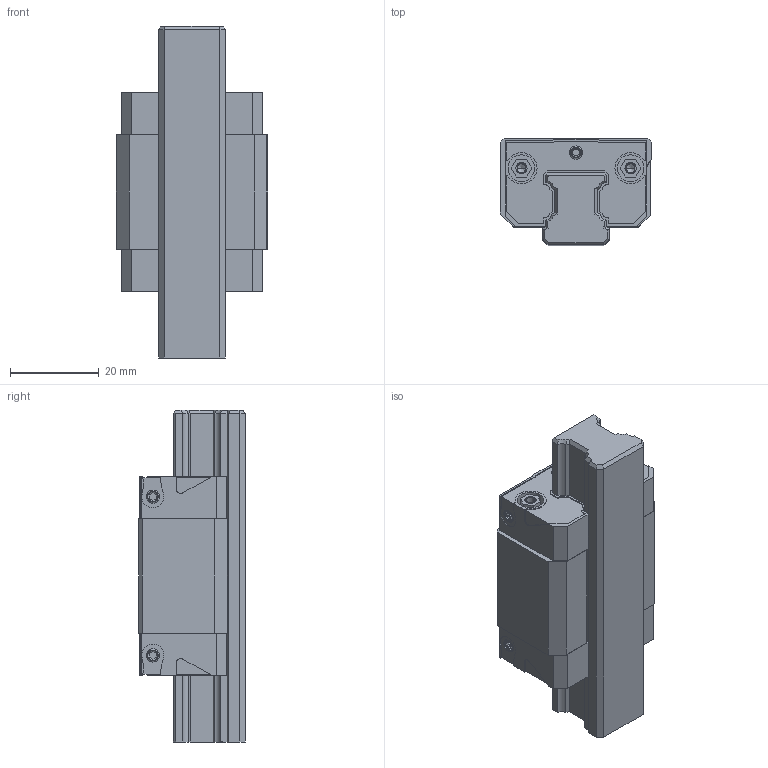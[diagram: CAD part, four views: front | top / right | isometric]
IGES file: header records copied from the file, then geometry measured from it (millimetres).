
Start section: 3D InterOp IGES (v. 2019 1.0.2), Spatial Corp. Copyright (c) 1999-2017.
Global section: file name: R1662_size15.igs; native system: Spatial Corp.; preprocessor: 3D InterOp GENERIC/IGES 3.0; author: Noname; organization: Noname; date: 20220629.125011; units: millimetre
Bounding box: 34 x 24 x 74.7 mm (x, y, z)
Surface area: 16655.9 mm2 (no closed solid volume)
Topology: 0 solids, 0 shells, 481 faces, 2506 edges, 2486 vertices
Faces by surface type: extrusion 288, revolution 193
